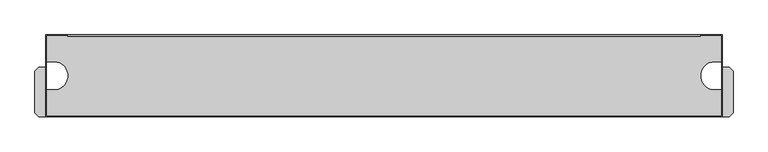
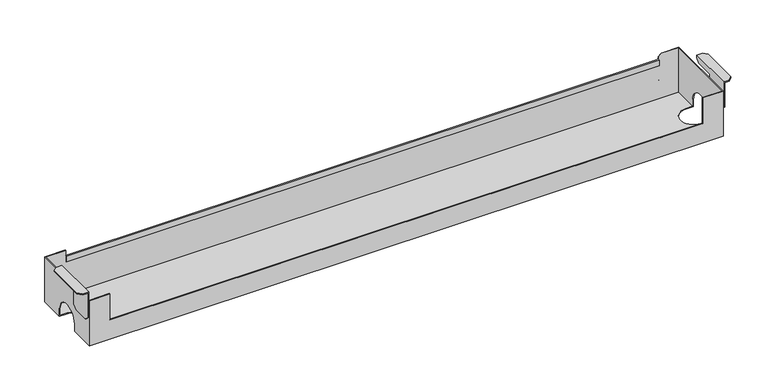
"""IFC4 building model written with IfcOpenShell, lengths in millimetres: furniture geometry, FREZZA_POP AD_Cable tray_for Desk : W1200 mm Structure_ZGBI - Embossed White."""

from ifc_helpers import new_model, si_unit, frame, origin, place, context, project, spatial, polyline, circle_curve, faceted_brep, source, transform, mapped, element, save
from ifc_brep_helpers import plane_surface, cylinder_surface, revolved_surface, advanced_brep


def furniture_74b2fef7(model_context):
    return source(origin(), model_context, "Body", "SolidModel", [
        faceted_brep([(328.0710678, -203.5, 725.0), (339.0, -203.5, 725.0), (339.0, -115.5, 725.0), (328.0710678, -115.5, 725.0), (321.0, -122.5710678, 725.0), (321.0, -196.4289322, 725.0), (328.0710678, -203.5, 723.0), (321.0, -196.4289322, 723.0), (321.0, -122.5710678, 723.0), (328.0710678, -115.5, 723.0), (337.0, -115.5, 723.0), (337.0, -203.5, 723.0), (337.0, -203.5, 674.0710678), (339.0, -203.5, 674.0710678), (339.0, -115.5, 720.0710678), (337.0, -115.5, 720.0710678), (339.0, -196.4289322, 667.0), (339.0, -165.5710678, 667.0), (339.0, -158.5, 674.0710678), (339.0, -158.5, 713.0), (339.0, -122.5710678, 713.0), (337.0, -165.5710678, 667.0), (337.0, -196.4289322, 667.0), (337.0, -122.5710678, 713.0), (337.0, -158.5, 713.0), (337.0, -158.5, 674.0710678)], [[[0, 1, 2, 3, 4, 5]], [[6, 7, 8, 9, 10, 11]], [[0, 6, 11, 12, 13, 1]], [[0, 5, 7, 6]], [[5, 4, 8, 7]], [[4, 3, 9, 8]], [[9, 3, 2, 14, 15, 10]], [[14, 2, 1, 13, 16, 17, 18, 19, 20]], [[21, 22, 12, 11, 10, 15, 23, 24, 25]], [[17, 16, 22, 21]], [[16, 13, 12, 22]], [[14, 20, 23, 15]], [[20, 19, 24, 23]], [[19, 18, 25, 24]], [[18, 17, 21, 25]]]),
        faceted_brep([(1541.0, -203.5, 725.0), (1551.9289322, -203.5, 725.0), (1559.0, -196.4289322, 725.0), (1559.0, -122.5710678, 725.0), (1551.9289322, -115.5, 725.0), (1541.0, -115.5, 725.0), (1551.9289322, -115.5, 723.0), (1559.0, -122.5710678, 723.0), (1559.0, -196.4289322, 723.0), (1551.9289322, -203.5, 723.0), (1543.0, -203.5, 723.0), (1543.0, -115.5, 723.0), (1541.0, -203.5, 674.0710678), (1543.0, -203.5, 674.0710678), (1543.0, -115.5, 720.0710678), (1541.0, -115.5, 720.0710678), (1541.0, -122.5710678, 713.0), (1541.0, -158.5, 713.0), (1541.0, -158.5, 674.0710678), (1541.0, -165.5710678, 667.0), (1541.0, -196.4289322, 667.0), (1543.0, -165.5710678, 667.0), (1543.0, -158.5, 674.0710678), (1543.0, -158.5, 713.0), (1543.0, -122.5710678, 713.0), (1543.0, -196.4289322, 667.0)], [[[0, 1, 2, 3, 4, 5]], [[6, 7, 8, 9, 10, 11]], [[12, 13, 10, 9, 1, 0]], [[2, 1, 9, 8]], [[3, 2, 8, 7]], [[4, 3, 7, 6]], [[4, 6, 11, 14, 15, 5]], [[12, 0, 5, 15, 16, 17, 18, 19, 20]], [[21, 22, 23, 24, 14, 11, 10, 13, 25]], [[20, 19, 21, 25]], [[12, 20, 25, 13]], [[16, 15, 14, 24]], [[17, 16, 24, 23]], [[18, 17, 23, 22]], [[19, 18, 22, 21]]]),
        advanced_brep(
        [(378.75, -203.5, 707.0), (378.75, -202.5, 707.0), (341.0, -202.5, 707.0), (341.0, -59.5, 707.0), (378.75, -59.5, 707.0), (378.75, -58.5, 707.0), (340.0, -58.5, 707.0), (340.0, -203.5, 707.0), (378.75, -58.5, 655.3463745), (378.962132, -58.5, 655.3463745), (378.962132, -58.5, 695.75), (1501.037868, -58.5, 695.75), (1501.037868, -58.5, 655.3463745), (1501.25, -58.5, 655.3463745), (1501.25, -58.5, 702.0), (1506.25, -58.5, 707.0), (1540.0, -58.5, 707.0), (1540.0, -58.5, 618.05), (1540.0, -58.5, 616.5963745), (341.0, -58.5, 616.5963745), (340.0, -58.5, 616.5963745), (378.75, -59.5, 655.3463745), (341.0, -59.5, 618.05), (1539.0, -59.5, 618.05), (1539.0, -59.5, 707.0), (1506.25, -59.5, 707.0), (1501.25, -59.5, 702.0), (1501.25, -59.5, 655.3463745), (1501.037868, -59.5, 655.3463745), (1501.037868, -59.5, 685.0), (378.962132, -59.5, 685.0), (378.962132, -59.5, 655.3463745), (340.0, -106.1, 616.5963745), (340.0, -106.1, 631.0), (340.0, -155.9, 631.0), (340.0, -155.9, 616.5963745), (340.0, -203.5, 616.5963745), (1540.0, -106.1, 616.5963745), (1526.0, -106.1, 616.5963745), (1526.0, -155.9, 616.5963745), (1540.0, -155.9, 616.5963745), (1540.0, -203.5, 616.5963745), (341.0, -203.5, 616.5963745), (355.0, -155.9, 616.5963745), (355.0, -106.1, 616.5963745), (1539.0, -202.5, 707.0), (1501.25, -202.5, 707.0), (1501.25, -203.5, 707.0), (1540.0, -203.5, 707.0), (1540.0, -155.9, 631.0), (1540.0, -106.1, 631.0), (1540.0, -203.5, 618.05), (1539.0, -106.1, 631.0), (1539.0, -155.9, 631.0), (1539.0, -155.9, 618.05), (1539.0, -202.5, 618.05), (1539.0, -106.1, 618.05), (1501.25, -203.5, 655.3463745), (378.75, -203.5, 655.3463745), (1526.0, -155.9, 618.05), (1526.0, -106.1, 618.05), (378.962132, -61.0, 685.0), (378.962132, -61.0, 695.75), (1501.037868, -61.0, 695.75), (1501.037868, -61.0, 685.0), (378.75, -202.5, 655.3463745), (1501.25, -202.5, 655.3463745), (341.0, -202.5, 618.05), (341.0, -106.1, 618.05), (355.0, -106.1, 618.05), (355.0, -155.9, 618.05), (341.0, -155.9, 618.05), (341.0, -106.1, 631.0), (341.0, -155.9, 631.0)],
        [
            (0, 1),
            (1, 2),
            (2, 3),
            (3, 4),
            (4, 5),
            (5, 6),
            (6, 7),
            (7, 0),
            (5, 8),
            (8, 9),
            (9, 10),
            (10, 11),
            (11, 12),
            (12, 13),
            (13, 14),
            (14, 15),
            (15, 16),
            (16, 17),
            (17, 18),
            (18, 19),
            (19, 20),
            (20, 6),
            (4, 21),
            (21, 8),
            (3, 22),
            (22, 23),
            (23, 24),
            (24, 25),
            (25, 26),
            (26, 27),
            (27, 28),
            (28, 29),
            (29, 30),
            (30, 31),
            (31, 21),
            (20, 32),
            (32, 33),
            (33, 34, circle_curve(frame((340.0, -131.0, 631.0), z_axis=(1.0, 0.0, 0.0), x_axis=(0.0, 1.0, 0.0)), 24.9)),
            (34, 35),
            (35, 36),
            (36, 7),
            (31, 9),
            (27, 13),
            (12, 28),
            (18, 37),
            (37, 38),
            (38, 39, circle_curve(frame((1526.0, -131.0, 616.5963745), z_axis=(0.0, 0.0, 1.0), x_axis=(-1.0, 0.0, 0.0)), 24.9)),
            (39, 40),
            (40, 41),
            (41, 42),
            (42, 36),
            (35, 43),
            (43, 44, circle_curve(frame((355.0, -131.0, 616.5963745), z_axis=(0.0, 0.0, 1.0), x_axis=(-1.0, 0.0, 0.0)), 24.9)),
            (44, 32),
            (15, 25),
            (24, 45),
            (45, 46),
            (46, 47),
            (47, 48),
            (48, 16),
            (26, 14),
            (49, 50, circle_curve(frame((1540.0, -131.0, 631.0), z_axis=(-1.0, 0.0, 0.0), x_axis=(0.0, 1.0, 0.0)), 24.9)),
            (50, 37),
            (48, 51),
            (51, 41),
            (40, 49),
            (52, 53, circle_curve(frame((1539.0, -131.0, 631.0), z_axis=(1.0, 0.0, 0.0), x_axis=(0.0, 1.0, 0.0)), 24.9)),
            (53, 54),
            (54, 55),
            (55, 45),
            (23, 56),
            (56, 52),
            (47, 57),
            (57, 58),
            (58, 0),
            (53, 49),
            (39, 59),
            (59, 54),
            (52, 50),
            (56, 60),
            (60, 38),
            (30, 61),
            (61, 62),
            (62, 10, circle_curve(frame((378.962132, -59.75, 695.75), z_axis=(-1.0, 0.0, 0.0), x_axis=(0.0, 1.0, 0.0)), 1.25)),
            (11, 63, circle_curve(frame((1501.037868, -59.75, 695.75), z_axis=(1.0, 0.0, 0.0), x_axis=(0.0, 1.0, 0.0)), 1.25)),
            (63, 64),
            (64, 29),
            (64, 61),
            (63, 62),
            (58, 65),
            (65, 1),
            (65, 66),
            (66, 46),
            (55, 67),
            (67, 2),
            (57, 66),
            (59, 60, circle_curve(frame((1526.0, -131.0, 618.05), z_axis=(0.0, 0.0, -1.0), x_axis=(-1.0, 0.0, 0.0)), 24.9)),
            (22, 68),
            (68, 69),
            (69, 70, circle_curve(frame((355.0, -131.0, 618.05), z_axis=(0.0, 0.0, -1.0), x_axis=(-1.0, 0.0, 0.0)), 24.9)),
            (70, 71),
            (71, 67),
            (44, 69),
            (68, 72),
            (72, 33),
            (43, 70),
            (34, 73),
            (73, 71),
            (73, 72, circle_curve(frame((341.0, -131.0, 631.0), z_axis=(-1.0, 0.0, 0.0), x_axis=(0.0, 1.0, 0.0)), 24.9)),
        ],
        [
            plane_surface(frame((340.0, -130.5, 707.0), z_axis=(0.0, 0.0, 1.0), x_axis=(0.0, -1.0, 0.0))),
            plane_surface(frame((378.75, -58.5, 707.0), z_axis=(0.0, 1.0, 0.0), x_axis=(0.0, 0.0, -1.0))),
            plane_surface(frame((378.75, -59.5, 707.0), z_axis=(1.0, 0.0, 0.0), x_axis=(0.0, 0.0, -1.0))),
            plane_surface(frame((340.0, -59.5, 707.0), z_axis=(0.0, -1.0, 0.0), x_axis=(0.0, 0.0, -1.0))),
            plane_surface(frame((340.0, -58.5, 707.0), z_axis=(-1.0, 0.0, 0.0), x_axis=(0.0, 0.0, -1.0))),
            plane_surface(frame((378.75, -59.5, 655.3463745), z_axis=(0.0, 0.0, 1.0), x_axis=(1.0, 0.0, 0.0))),
            plane_surface(frame((340.0, -58.5, 616.5963745), z_axis=(0.0, 0.0, -1.0), x_axis=(1.0, 0.0, 0.0))),
            plane_surface(frame((1540.0, -130.5, 707.0), z_axis=(0.0, 0.0, 1.0), x_axis=(0.0, -1.0, 0.0))),
            plane_surface(frame((1501.25, -59.5, 655.3463745), z_axis=(-1.0, 0.0, 0.0), x_axis=(0.0, 0.0, 1.0))),
            plane_surface(frame((1540.0, -58.5, 616.5963745), z_axis=(1.0, 0.0, 0.0), x_axis=(0.0, 0.0, 1.0))),
            plane_surface(frame((1539.0, -58.5, 707.0), z_axis=(-1.0, 0.0, 0.0), x_axis=(0.0, 0.0, -1.0))),
            plane_surface(frame((1539.0, -203.5, 616.5963745), z_axis=(0.0, -1.0, 0.0), x_axis=(1.0, 0.0, 0.0))),
            plane_surface(frame((1539.0, -155.9, 631.0), z_axis=(0.0, 1.0, 0.0), x_axis=(1.0, 0.0, 0.0))),
            revolved_surface(polyline([(1540.0, -106.1, 631.0), (1539.0, -106.1, 631.0)]), (1540.0, -131.0, 631.0), (1.0, 0.0, 0.0)),
            plane_surface(frame((1539.0, -106.1, 616.5963745), z_axis=(0.0, -1.0, 0.0), x_axis=(1.0, 0.0, 0.0))),
            plane_surface(frame((378.962132, -58.5, 707.0), z_axis=(-1.0, 0.0, 0.0), x_axis=(0.0, 0.0, 1.0))),
            plane_surface(frame((1501.037868, -58.5, 707.0), z_axis=(1.0, 0.0, 0.0), x_axis=(0.0, 0.0, 1.0))),
            plane_surface(frame((378.962132, -59.5, 685.0), z_axis=(0.0, 0.0, -1.0), x_axis=(1.0, 0.0, 0.0))),
            plane_surface(frame((378.962132, -61.0, 685.0), z_axis=(0.0, -1.0, 0.0), x_axis=(1.0, 0.0, 0.0))),
            cylinder_surface(frame((378.962132, -59.75, 695.75), z_axis=(-1.0, 0.0, 0.0), x_axis=(0.0, 1.0, 0.0)), 1.25),
            plane_surface(frame((378.75, -203.5, 707.0), z_axis=(1.0, 0.0, 0.0), x_axis=(0.0, 0.0, -1.0))),
            plane_surface(frame((378.75, -202.5, 707.0), z_axis=(0.0, 1.0, 0.0), x_axis=(0.0, 0.0, -1.0))),
            plane_surface(frame((378.75, -203.5, 655.3463745), z_axis=(0.0, 0.0, 1.0), x_axis=(1.0, 0.0, 0.0))),
            plane_surface(frame((1501.25, -203.5, 655.3463745), z_axis=(-1.0, 0.0, 0.0), x_axis=(0.0, 0.0, 1.0))),
            plane_surface(frame((1540.0, -203.5, 618.05), z_axis=(0.0, 0.0, 1.0), x_axis=(0.0, 1.0, 0.0))),
            revolved_surface(polyline([(1501.1, -131.0, 616.5963745), (1501.1, -131.0, 618.05)]), (1526.0, -131.0, 616.5963745), (0.0, 0.0, -1.0)),
            plane_surface(frame((340.0, -106.1, 618.05), z_axis=(0.0, -1.0, 0.0), x_axis=(0.0, 0.0, -1.0))),
            revolved_surface(polyline([(330.1, -131.0, 616.5963745), (330.1, -131.0, 618.05)]), (355.0, -131.0, 616.5963745), (0.0, 0.0, -1.0)),
            plane_surface(frame((355.0, -155.9, 618.05), z_axis=(0.0, 1.0, 0.0), x_axis=(0.0, 0.0, -1.0))),
            plane_surface(frame((341.0, -203.5, 707.0), z_axis=(1.0, 0.0, 0.0), x_axis=(0.0, -1.0, 0.0))),
            revolved_surface(polyline([(340.0, -106.1, 631.0), (341.0, -106.1, 631.0)]), (340.0, -131.0, 631.0), (-1.0, 0.0, 0.0)),
            plane_surface(frame((1506.25, -58.5, 707.0), z_axis=(-0.7071067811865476, 0.0, 0.7071067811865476), x_axis=(0.0, -1.0, 0.0))),
        ],
        [
            (0, [[1, 2, 3, 4, 5, 6, 7, 8]]),
            (1, [[-6, 9, 10, 11, 12, 13, 14, 15, 16, 17, 18, 19, 20, 21, 22]]),
            (2, [[-5, 23, 24, -9]]),
            (3, [[-23, -4, 25, 26, 27, 28, 29, 30, 31, 32, 33, 34, 35]]),
            (4, [[-7, -22, 36, 37, 38, 39, 40, 41]]),
            (5, [[-24, -35, 42, -10]]),
            (5, [[43, -14, 44, -31]]),
            (6, [[45, 46, 47, 48, 49, 50, 51, -40, 52, 53, 54, -36, -21, -20]]),
            (7, [[55, -28, 56, 57, 58, 59, 60, -17]]),
            (8, [[-43, -30, 61, -15]]),
            (9, [[62, 63, -45, -19, -18, -60, 64, 65, -49, 66]]),
            (10, [[67, 68, 69, 70, -56, -27, 71, 72]]),
            (11, [[73, 74, 75, -8, -41, -51, -50, -65, -64, -59]]),
            (12, [[76, -66, -48, 77, 78, -68]]),
            (13, [[-67, 79, -62, -76]]),
            (14, [[-79, -72, 80, 81, -46, -63]]),
            (15, [[-34, 82, 83, 84, -11, -42]]),
            (16, [[-13, 85, 86, 87, -32, -44]]),
            (17, [[-82, -33, -87, 88]]),
            (18, [[-83, -88, -86, 89]]),
            (19, [[-84, -89, -85, -12]]),
            (20, [[-1, -75, 90, 91]]),
            (21, [[-91, 92, 93, -57, -70, 94, 95, -2]]),
            (22, [[-74, 96, -92, -90]]),
            (23, [[-73, -58, -93, -96]]),
            (24, [[97, -80, -71, -26, 98, 99, 100, 101, 102, -94, -69, -78]]),
            (25, [[-97, -77, -47, -81]]),
            (26, [[-37, -54, 103, -99, 104, 105]]),
            (27, [[-100, -103, -53, 106]]),
            (28, [[-106, -52, -39, 107, 108, -101]]),
            (29, [[109, -104, -98, -25, -3, -95, -102, -108]]),
            (30, [[-109, -107, -38, -105]]),
            (31, [[-16, -61, -29, -55]]),
        ],
    ),
    ])


if __name__ == "__main__":
    model = new_model("IFC4")
    model_context = context("Model", 3, world=origin())
    ifc_project = project(units=[si_unit("LENGTHUNIT", "METRE", prefix="MILLI")], contexts=[model_context])
    site = spatial("IfcSite", under=ifc_project)
    building = spatial("IfcBuilding", under=site)
    placement = place(None, origin())
    furniture_shape = furniture_74b2fef7(model_context)
    element("IfcFurniture", 1, ObjectType="FREZZA_POP AD_Cable tray_for Desk : W1200 mm Structure_ZGBI - Embossed White", at=placement, inside=building, context=model_context, shape_type="MappedRepresentation", body=[
        mapped(furniture_shape, transform((0.0, 0.0, 0.0), x_axis=(1.0, 0.0, 0.0), y_axis=(0.0, 1.0, 0.0), z_axis=(0.0, 0.0, 1.0))),
    ])
    save(model, "model.ifc")
